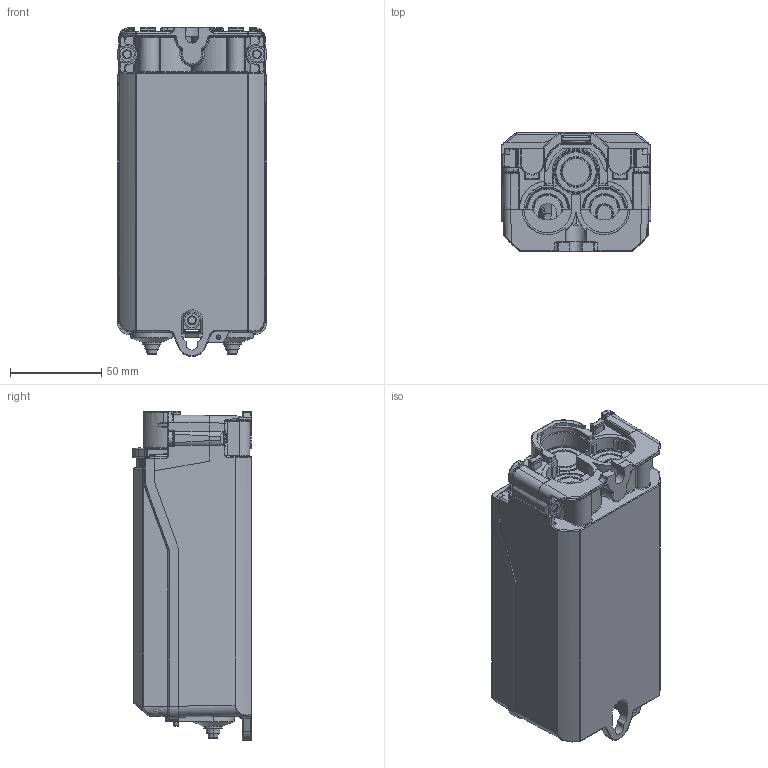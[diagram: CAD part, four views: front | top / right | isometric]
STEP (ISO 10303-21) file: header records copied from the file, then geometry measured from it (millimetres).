
FILE_DESCRIPTION (( 'STEP AP214' ), '1' );
FILE_NAME ('Kabelkasten HSW1810.STEP', '2022-07-13T10:32:31', ( '' ), ( '' ), 'SwSTEP 2.0', 'SolidWorks 2021', '' );
FILE_SCHEMA (( 'AUTOMOTIVE_DESIGN' ));
Length unit declared in the file: millimetre
Products named in the file (1): Kabelkasten HSW1810
Bounding box: 82 x 65 x 180.02 mm (x, y, z)
Surface area: 71252.9 mm2 (no closed solid volume)
Topology: 0 solids, 26 shells, 1495 faces, 4604 edges, 3039 vertices
Faces by surface type: plane 591, cylinder 390, bspline 325, cone 81, torus 65, sphere 43
Entity records: 80889 total; most frequent: CARTESIAN_POINT 27345, ORIENTED_EDGE 7941, DIRECTION 6771, EDGE_CURVE 4550, VERTEX_POINT 3029, VECTOR 2451, LINE 2451, AXIS2_PLACEMENT_3D 2160
